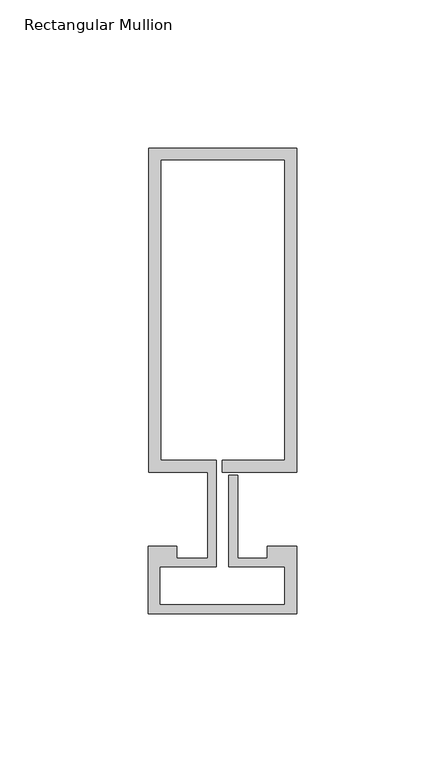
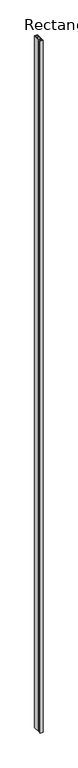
"""IFC4 building model written with IfcOpenShell, lengths in millimetres: member geometry, Rectangular Mullion : Reynaers_CW-50_Mullion-Transom_Horizontal_109.4mm_Facecap-02C."""

from ifc_helpers import new_model, si_unit, frame, origin, place, context, project, spatial, polyline, outline, extrude, source, transform, mapped, element, save


def rectangular_mullion_86413ba4(model_context):
    return source(origin(), model_context, "Body", "SweptSolid", [
        extrude(outline(polyline([(-24.8004059, 121.9), (25.1995941, 121.9), (25.1995941, 12.5), (0.0, 12.5), (0.0, 16.5), (21.1995941, 16.5), (21.1995941, 117.9), (-20.8004059, 117.9), (-20.8004059, 16.5), (-1.9004059, 16.5), (-1.9004059, -19.5), (-20.994845, -19.5), (-20.994845, -32.2191338), (21.1995941, -32.2191338), (21.1995941, -19.5), (2.2995941, -19.5), (2.2995941, 11.5), (5.2995941, 11.5), (5.2995941, -16.5), (15.2996495, -16.5), (15.2996495, -12.5), (25.1995941, -12.5), (25.1995941, -35.3), (-24.994845, -35.3), (-24.994845, -12.5), (-15.2996495, -12.5), (-15.2996495, -16.5), (-4.9004059, -16.5), (-4.9004059, 12.5), (-24.8004059, 12.5), (-24.8004059, 121.9)])), frame((0.0, 0.0, -12000.0), z_axis=(0.0, 0.0, 1.0), x_axis=(1.0, 0.0, 0.0)), (0.0, 0.0, 1.0), 12000.0),
    ])


if __name__ == "__main__":
    model = new_model("IFC4")
    model_context = context("Model", 3, world=origin())
    ifc_project = project(units=[si_unit("LENGTHUNIT", "METRE", prefix="MILLI")], contexts=[model_context])
    site = spatial("IfcSite", under=ifc_project)
    building = spatial("IfcBuilding", under=site)
    placement = place(None, origin())
    rectangular_mullion_shape = rectangular_mullion_86413ba4(model_context)
    element("IfcMember", 1, ObjectType="Rectangular Mullion : Reynaers_CW-50_Mullion-Transom_Horizontal_109.4mm_Facecap-02C", at=placement, inside=building, context=model_context, shape_type="MappedRepresentation", body=[
        mapped(rectangular_mullion_shape, transform((0.0, 0.0, 0.0), x_axis=(1.0, 0.0, 0.0), y_axis=(0.0, 1.0, 0.0), z_axis=(0.0, 0.0, 1.0))),
    ])
    save(model, "model.ifc")
